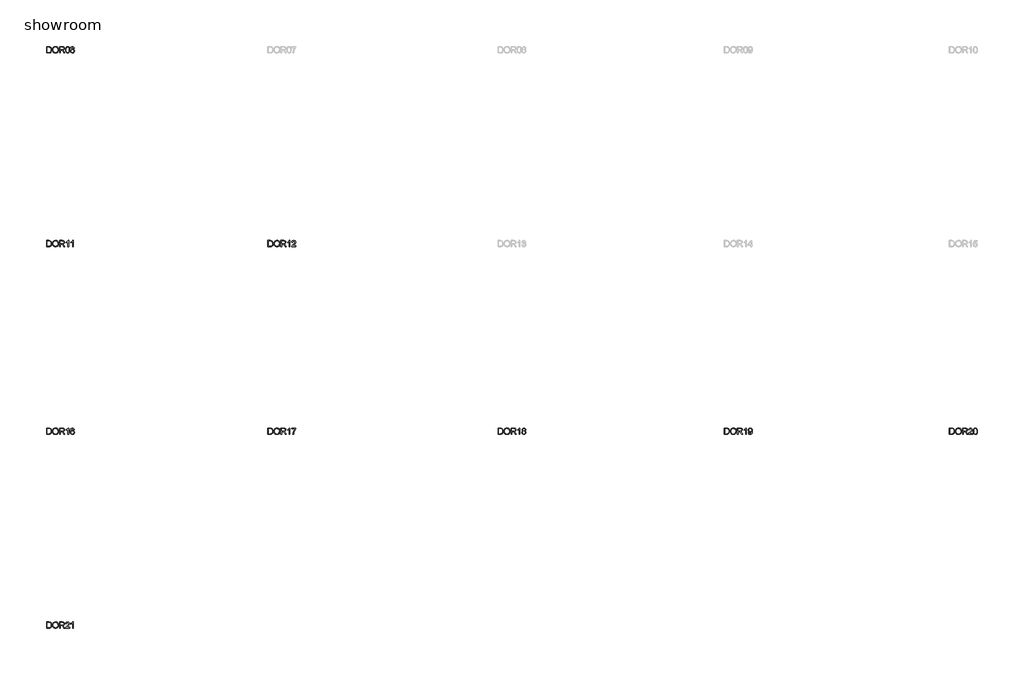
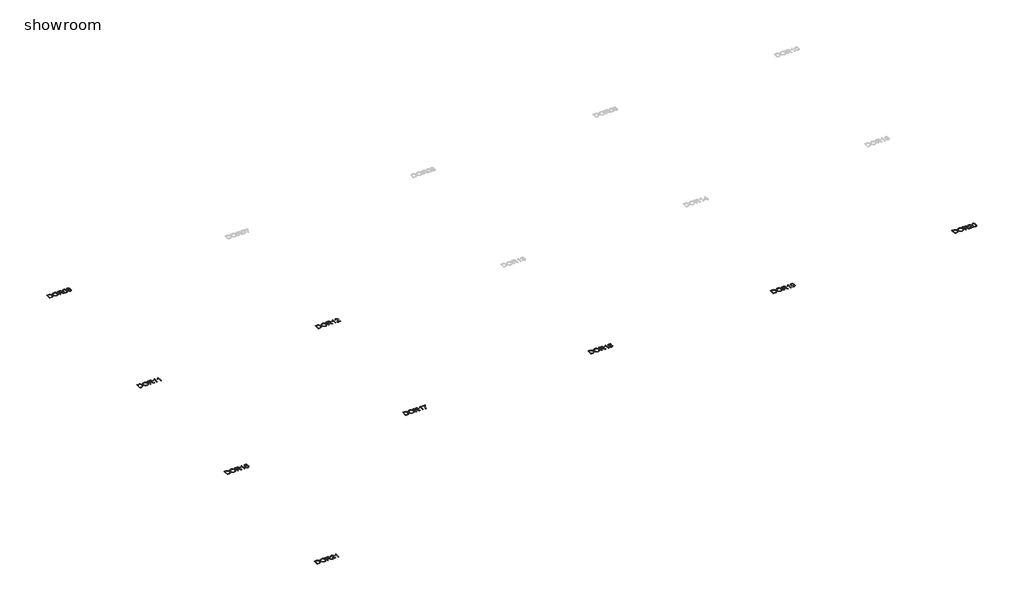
# One storey, part 1 of 4: 9 proxies.
"""IFC4 building model written with IfcOpenShell, lengths in millimetres."""

from ifc_helpers import new_model, si_unit, origin, origin_with_axes, place, context, project, spatial, polyline, outline, extrude, element, save

model = new_model("IFC4")

# Units and contexts
model_context = context("Model", 3, world=origin())
ifc_project = project(units=[si_unit("LENGTHUNIT", "METRE", prefix="MILLI")], contexts=[model_context])

# Site, building, storey
site = spatial("IfcSite", under=ifc_project)
building = spatial("IfcBuilding", under=site)
storey = spatial("IfcBuildingStorey", under=building, Name="showroom", Elevation=0.0)

# Proxies
placement = place(None, origin())
element("IfcBuildingElementProxy", 1, Name="100mm Arial", ObjectType="100mm Arial", at=placement, inside=storey, context=model_context, shape_type="SweptSolid", body=[
    extrude(outline(polyline([(-1828.1876441, -3324.8979193), (-1828.1876441, -3224.4416092), (-1793.5331602, -3224.4416092), (-1775.6050443, -3225.8886117), (-1760.8407135, -3233.0745733), (-1748.9458623, -3250.2423998), (-1744.9972623, -3274.130204), (-1747.6705381, -3294.4005019), (-1754.5376687, -3309.0299426), (-1763.7101931, -3318.1411534), (-1775.7154089, -3323.1811367), (-1791.8654284, -3324.8979193), (-1828.1876441, -3324.8979193)]), holes=[polyline([(-1815.6306053, -3312.3408806), (-1793.4105328, -3312.3408806), (-1777.2482505, -3310.5259961), (-1767.9285733, -3305.4001736), (-1760.2888905, -3292.9289739), (-1757.554301, -3273.9340003), (-1758.8940046, -3260.24879), (-1762.9131154, -3250.1442979), (-1775.9484008, -3239.0097362), (-1793.7538894, -3236.9986479), (-1815.6306053, -3236.9986479), (-1815.6306053, -3312.3408806)])]), origin_with_axes(), (0.0, 0.0, 1.0), 2.0),
    extrude(outline(polyline([(-1732.4402235, -3275.9941394), (-1729.0924973, -3253.7801983), (-1719.0493189, -3236.9741225), (-1703.714771, -3226.3975151), (-1684.4929368, -3222.8719793), (-1671.31663, -3224.5274483), (-1659.5014866, -3229.4938552), (-1649.6913, -3237.4217122), (-1642.5298639, -3247.9615314), (-1638.1520681, -3260.6044093), (-1636.6928029, -3274.8414425), (-1638.2287102, -3289.2685481), (-1642.8364322, -3302.0892356), (-1650.2615171, -3312.6474489), (-1660.2495133, -3320.2871317), (-1671.9634892, -3324.9224448), (-1684.5665132, -3326.4675492), (-1697.9451551, -3324.7599636), (-1709.8277435, -3319.6372068), (-1719.6134046, -3311.562197), (-1726.7012644, -3300.9978524), (-1732.4402235, -3275.9941394)]), holes=[polyline([(-1719.8831847, -3276.1167668), (-1717.3723901, -3291.8314593), (-1709.8400063, -3303.8060183), (-1698.5184378, -3311.3843874), (-1684.6400896, -3313.9105104), (-1670.5594062, -3311.3598619), (-1659.2194437, -3303.7079164), (-1651.7422422, -3291.3654755), (-1649.2498416, -3274.7433407), (-1653.5172728, -3254.0193216), (-1665.9884724, -3240.2973232), (-1684.4193604, -3235.4290181), (-1697.926761, -3237.7742658), (-1709.4108106, -3244.810009), (-1717.2650912, -3257.3271939), (-1719.8831847, -3276.1167668)])]), origin_with_axes(), (0.0, 0.0, 1.0), 2.0),
    extrude(outline(polyline([(-1619.4268746, -3324.8979193), (-1619.4268746, -3224.4416092), (-1576.1394265, -3224.4416092), (-1556.0408068, -3227.1516732), (-1545.0533979, -3236.7411306), (-1540.9453823, -3251.934657), (-1542.6468365, -3261.8306826), (-1547.7511992, -3270.0344511), (-1556.4117545, -3276.0493217), (-1568.7817866, -3279.3786538), (-1561.6448759, -3284.7497309), (-1551.4668073, -3297.6746517), (-1534.7159138, -3324.8979193), (-1549.3085663, -3324.8979193), (-1562.3806399, -3304.0757984), (-1571.8229444, -3290.2924863), (-1578.457083, -3283.780975), (-1584.4290341, -3281.389742), (-1591.7130976, -3280.9482836), (-1606.8698358, -3280.9482836), (-1606.8698358, -3324.8979193), (-1619.4268746, -3324.8979193)]), holes=[polyline([(-1606.8698358, -3268.3912449), (-1578.7636514, -3268.3912449), (-1564.4285163, -3266.6131486), (-1556.2860615, -3260.9232404), (-1553.502421, -3252.4006408), (-1558.8121845, -3241.3396555), (-1575.5998662, -3236.9986479), (-1606.8698358, -3236.9986479), (-1606.8698358, -3268.3912449)])]), origin_with_axes(), (0.0, 0.0, 1.0), 2.0),
    extrude(outline(polyline([(-1523.679454, -3275.4791046), (-1519.9883713, -3246.5758426), (-1509.0254878, -3229.9107882), (-1490.7172272, -3224.4416092), (-1476.0509983, -3227.6789707), (-1465.9219807, -3237.0109107), (-1460.0358688, -3251.8733433), (-1457.7550004, -3275.4791046), (-1461.4092949, -3304.2597394), (-1472.3353902, -3320.961582), (-1480.5667498, -3325.0910574), (-1490.7172272, -3326.4675492), (-1503.7647753, -3324.0763162), (-1513.6730637, -3316.9026173), (-1521.1778564, -3299.9126005), (-1523.679454, -3275.4791046)]), holes=[polyline([(-1511.1224152, -3275.4545792), (-1509.6508872, -3295.2067766), (-1505.2363033, -3306.6387096), (-1498.6634783, -3312.0925602), (-1490.7172272, -3313.9105104), (-1482.7709761, -3312.0864288), (-1476.1981511, -3306.6141842), (-1471.7835672, -3295.1761198), (-1470.3120392, -3275.4545792), (-1471.7345162, -3256.1469058), (-1476.0019474, -3244.626068), (-1482.5625096, -3238.905503), (-1490.86438, -3236.9986479), (-1498.724792, -3238.6786424), (-1505.0400995, -3243.7186257), (-1509.6018363, -3255.9568334), (-1511.1224152, -3275.4545792)])]), origin_with_axes(), (0.0, 0.0, 1.0), 2.0),
    extrude(outline(polyline([(-1382.4127678, -3251.1253166), (-1394.9698066, -3252.6949464), (-1399.7277471, -3242.2225723), (-1412.3093113, -3236.9986479), (-1423.6400767, -3240.0398058), (-1432.2117272, -3251.4564104), (-1435.7801826, -3273.8358984), (-1424.7069345, -3263.8172454), (-1410.9849361, -3260.5430956), (-1399.3843905, -3262.7810444), (-1389.6477804, -3269.4948909), (-1383.0442986, -3279.7526672), (-1380.843138, -3292.6224056), (-1384.9879418, -3309.9496476), (-1396.3922836, -3322.2123808), (-1412.8488715, -3326.4675492), (-1427.0951018, -3323.6471205), (-1438.4411957, -3315.1858347), (-1445.8632149, -3300.2498257), (-1448.3372213, -3278.0052277), (-1445.5903691, -3252.9953834), (-1437.3498124, -3235.895002), (-1426.0987547, -3227.3049574), (-1411.5244964, -3224.4416092), (-1400.5064306, -3226.2135741), (-1391.6833941, -3231.529469), (-1385.5029766, -3239.9723607), (-1382.4127678, -3251.1253166)]), holes=[polyline([(-1435.7801826, -3292.4262019), (-1432.8739148, -3303.3032462), (-1425.1483929, -3311.2004464), (-1413.8298902, -3313.9105104), (-1405.5433483, -3312.5064275), (-1399.0287713, -3308.2941786), (-1394.8073254, -3301.6723027), (-1393.4001767, -3293.0393385), (-1394.7889313, -3284.7527966), (-1398.9551949, -3278.4344233), (-1405.5801365, -3274.4337066), (-1414.344925, -3273.1001344), (-1429.5384514, -3278.4344233), (-1434.2197498, -3284.5995124), (-1435.7801826, -3292.4262019)])]), origin_with_axes(), (0.0, 0.0, 1.0), 2.0),
])
element("IfcBuildingElementProxy", 2, Name="100mm Arial", ObjectType="100mm Arial", at=placement, inside=storey, context=model_context, shape_type="SweptSolid", body=[
    extrude(outline(polyline([(-1828.1876441, -6424.8979193), (-1828.1876441, -6324.4416092), (-1793.5331602, -6324.4416092), (-1775.6050443, -6325.8886117), (-1760.8407135, -6333.0745733), (-1748.9458623, -6350.2423998), (-1744.9972623, -6374.130204), (-1747.6705381, -6394.4005019), (-1754.5376687, -6409.0299426), (-1763.7101931, -6418.1411534), (-1775.7154089, -6423.1811367), (-1791.8654284, -6424.8979193), (-1828.1876441, -6424.8979193)]), holes=[polyline([(-1815.6306053, -6412.3408806), (-1793.4105328, -6412.3408806), (-1777.2482505, -6410.5259961), (-1767.9285733, -6405.4001736), (-1760.2888905, -6392.9289739), (-1757.554301, -6373.9340003), (-1758.8940046, -6360.24879), (-1762.9131154, -6350.1442979), (-1775.9484008, -6339.0097362), (-1793.7538894, -6336.9986479), (-1815.6306053, -6336.9986479), (-1815.6306053, -6412.3408806)])]), origin_with_axes(), (0.0, 0.0, 1.0), 2.0),
    extrude(outline(polyline([(-1732.4402235, -6375.9941394), (-1729.0924973, -6353.7801983), (-1719.0493189, -6336.9741225), (-1703.714771, -6326.3975151), (-1684.4929368, -6322.8719793), (-1671.31663, -6324.5274483), (-1659.5014866, -6329.4938552), (-1649.6913, -6337.4217122), (-1642.5298639, -6347.9615314), (-1638.1520681, -6360.6044093), (-1636.6928029, -6374.8414425), (-1638.2287102, -6389.2685481), (-1642.8364322, -6402.0892356), (-1650.2615171, -6412.6474489), (-1660.2495133, -6420.2871317), (-1671.9634892, -6424.9224448), (-1684.5665132, -6426.4675492), (-1697.9451551, -6424.7599636), (-1709.8277435, -6419.6372068), (-1719.6134046, -6411.562197), (-1726.7012644, -6400.9978524), (-1732.4402235, -6375.9941394)]), holes=[polyline([(-1719.8831847, -6376.1167668), (-1717.3723901, -6391.8314593), (-1709.8400063, -6403.8060183), (-1698.5184378, -6411.3843874), (-1684.6400896, -6413.9105104), (-1670.5594062, -6411.3598619), (-1659.2194437, -6403.7079164), (-1651.7422422, -6391.3654755), (-1649.2498416, -6374.7433407), (-1653.5172728, -6354.0193216), (-1665.9884724, -6340.2973232), (-1684.4193604, -6335.4290181), (-1697.926761, -6337.7742658), (-1709.4108106, -6344.810009), (-1717.2650912, -6357.3271939), (-1719.8831847, -6376.1167668)])]), origin_with_axes(), (0.0, 0.0, 1.0), 2.0),
    extrude(outline(polyline([(-1619.4268746, -6424.8979193), (-1619.4268746, -6324.4416092), (-1576.1394265, -6324.4416092), (-1556.0408068, -6327.1516732), (-1545.0533979, -6336.7411306), (-1540.9453823, -6351.934657), (-1542.6468365, -6361.8306826), (-1547.7511992, -6370.0344511), (-1556.4117545, -6376.0493217), (-1568.7817866, -6379.3786538), (-1561.6448759, -6384.7497309), (-1551.4668073, -6397.6746517), (-1534.7159138, -6424.8979193), (-1549.3085663, -6424.8979193), (-1562.3806399, -6404.0757984), (-1571.8229444, -6390.2924863), (-1578.457083, -6383.780975), (-1584.4290341, -6381.389742), (-1591.7130976, -6380.9482836), (-1606.8698358, -6380.9482836), (-1606.8698358, -6424.8979193), (-1619.4268746, -6424.8979193)]), holes=[polyline([(-1606.8698358, -6368.3912449), (-1578.7636514, -6368.3912449), (-1564.4285163, -6366.6131486), (-1556.2860615, -6360.9232404), (-1553.502421, -6352.4006408), (-1558.8121845, -6341.3396555), (-1575.5998662, -6336.9986479), (-1606.8698358, -6336.9986479), (-1606.8698358, -6368.3912449)])]), origin_with_axes(), (0.0, 0.0, 1.0), 2.0),
    extrude(outline(polyline([(-1476.5905586, -6424.8979193), (-1489.1475973, -6424.8979193), (-1489.1475973, -6346.6126308), (-1501.0424485, -6355.0861794), (-1514.2616749, -6361.4260124), (-1514.2616749, -6349.5556867), (-1495.8553124, -6337.8079883), (-1484.6839625, -6324.4416092), (-1476.5905586, -6324.4416092), (-1476.5905586, -6424.8979193)])), origin_with_axes(), (0.0, 0.0, 1.0), 2.0),
    extrude(outline(polyline([(-1399.6786961, -6424.8979193), (-1412.2357349, -6424.8979193), (-1412.2357349, -6346.6126308), (-1424.1305861, -6355.0861794), (-1437.3498124, -6361.4260124), (-1437.3498124, -6349.5556867), (-1418.9434499, -6337.8079883), (-1407.7721, -6324.4416092), (-1399.6786961, -6324.4416092), (-1399.6786961, -6424.8979193)])), origin_with_axes(), (0.0, 0.0, 1.0), 2.0),
])
element("IfcBuildingElementProxy", 3, Name="100mm Arial", ObjectType="100mm Arial", at=placement, inside=storey, context=model_context, shape_type="SweptSolid", body=[
    extrude(outline(polyline([(1711.8123559, -6424.8979193), (1711.8123559, -6324.4416092), (1746.4668398, -6324.4416092), (1764.3949557, -6325.8886117), (1779.1592865, -6333.0745733), (1791.0541377, -6350.2423998), (1795.0027377, -6374.130204), (1792.3294619, -6394.4005019), (1785.4623313, -6409.0299426), (1776.2898069, -6418.1411534), (1764.2845911, -6423.1811367), (1748.1345716, -6424.8979193), (1711.8123559, -6424.8979193)]), holes=[polyline([(1724.3693947, -6412.3408806), (1746.5894672, -6412.3408806), (1762.7517495, -6410.5259961), (1772.0714267, -6405.4001736), (1779.7111095, -6392.9289739), (1782.445699, -6373.9340003), (1781.1059954, -6360.24879), (1777.0868846, -6350.1442979), (1764.0515992, -6339.0097362), (1746.2461106, -6336.9986479), (1724.3693947, -6336.9986479), (1724.3693947, -6412.3408806)])]), origin_with_axes(), (0.0, 0.0, 1.0), 2.0),
    extrude(outline(polyline([(1807.5597765, -6375.9941394), (1810.9075027, -6353.7801983), (1820.9506811, -6336.9741225), (1836.285229, -6326.3975151), (1855.5070632, -6322.8719793), (1868.68337, -6324.5274483), (1880.4985134, -6329.4938552), (1890.3087, -6337.4217122), (1897.4701361, -6347.9615314), (1901.8479319, -6360.6044093), (1903.3071971, -6374.8414425), (1901.7712898, -6389.2685481), (1897.1635678, -6402.0892356), (1889.7384829, -6412.6474489), (1879.7504867, -6420.2871317), (1868.0365108, -6424.9224448), (1855.4334868, -6426.4675492), (1842.0548449, -6424.7599636), (1830.1722565, -6419.6372068), (1820.3865954, -6411.562197), (1813.2987356, -6400.9978524), (1807.5597765, -6375.9941394)]), holes=[polyline([(1820.1168153, -6376.1167668), (1822.6276099, -6391.8314593), (1830.1599937, -6403.8060183), (1841.4815622, -6411.3843874), (1855.3599104, -6413.9105104), (1869.4405938, -6411.3598619), (1880.7805563, -6403.7079164), (1888.2577578, -6391.3654755), (1890.7501584, -6374.7433407), (1886.4827272, -6354.0193216), (1874.0115276, -6340.2973232), (1855.5806396, -6335.4290181), (1842.073239, -6337.7742658), (1830.5891894, -6344.810009), (1822.7349088, -6357.3271939), (1820.1168153, -6376.1167668)])]), origin_with_axes(), (0.0, 0.0, 1.0), 2.0),
    extrude(outline(polyline([(1920.5731254, -6424.8979193), (1920.5731254, -6324.4416092), (1963.8605735, -6324.4416092), (1983.9591932, -6327.1516732), (1994.9466021, -6336.7411306), (1999.0546177, -6351.934657), (1997.3531635, -6361.8306826), (1992.2488008, -6370.0344511), (1983.5882455, -6376.0493217), (1971.2182134, -6379.3786538), (1978.3551241, -6384.7497309), (1988.5331927, -6397.6746517), (2005.2840862, -6424.8979193), (1990.6914337, -6424.8979193), (1977.6193601, -6404.0757984), (1968.1770556, -6390.2924863), (1961.542917, -6383.780975), (1955.5709659, -6381.389742), (1948.2869024, -6380.9482836), (1933.1301642, -6380.9482836), (1933.1301642, -6424.8979193), (1920.5731254, -6424.8979193)]), holes=[polyline([(1933.1301642, -6368.3912449), (1961.2363486, -6368.3912449), (1975.5714837, -6366.6131486), (1983.7139385, -6360.9232404), (1986.497579, -6352.4006408), (1981.1878155, -6341.3396555), (1964.4001338, -6336.9986479), (1933.1301642, -6336.9986479), (1933.1301642, -6368.3912449)])]), origin_with_axes(), (0.0, 0.0, 1.0), 2.0),
    extrude(outline(polyline([(2063.4094414, -6424.8979193), (2050.8524027, -6424.8979193), (2050.8524027, -6346.6126308), (2038.9575515, -6355.0861794), (2025.7383251, -6361.4260124), (2025.7383251, -6349.5556867), (2044.1446876, -6337.8079883), (2055.3160375, -6324.4416092), (2063.4094414, -6324.4416092), (2063.4094414, -6424.8979193)])), origin_with_axes(), (0.0, 0.0, 1.0), 2.0),
    extrude(outline(polyline([(2157.5872322, -6412.3408806), (2157.5872322, -6424.8979193), (2091.6627787, -6424.8979193), (2093.0116793, -6416.2404297), (2100.6390993, -6402.9108387), (2116.3599233, -6388.3549745), (2138.0404355, -6367.4347517), (2143.4605636, -6353.2099812), (2138.3470038, -6341.6952748), (2124.9928874, -6336.9986479), (2111.0746853, -6341.5849102), (2105.7894473, -6354.2645763), (2093.2324085, -6352.6949464), (2096.276632, -6340.5487092), (2102.858654, -6331.6766218), (2112.6351181, -6326.2503623), (2125.2626675, -6324.4416092), (2137.9821875, -6326.4526974), (2147.7402575, -6332.4859621), (2153.9482661, -6341.499071), (2156.0176023, -6352.4496917), (2153.7857849, -6364.3568057), (2146.3668313, -6376.6685898), (2128.3774018, -6393.8732044), (2113.9319021, -6405.9519966), (2108.2665194, -6412.3408806), (2157.5872322, -6412.3408806)])), origin_with_axes(), (0.0, 0.0, 1.0), 2.0),
])
element("IfcBuildingElementProxy", 4, Name="100mm Arial", ObjectType="100mm Arial", at=placement, inside=storey, context=model_context, shape_type="SweptSolid", body=[
    extrude(outline(polyline([(-1828.1876441, -9424.8979193), (-1828.1876441, -9324.4416092), (-1793.5331602, -9324.4416092), (-1775.6050443, -9325.8886117), (-1760.8407135, -9333.0745733), (-1748.9458623, -9350.2423998), (-1744.9972623, -9374.130204), (-1747.6705381, -9394.4005019), (-1754.5376687, -9409.0299426), (-1763.7101931, -9418.1411534), (-1775.7154089, -9423.1811367), (-1791.8654284, -9424.8979193), (-1828.1876441, -9424.8979193)]), holes=[polyline([(-1815.6306053, -9412.3408806), (-1793.4105328, -9412.3408806), (-1777.2482505, -9410.5259961), (-1767.9285733, -9405.4001736), (-1760.2888905, -9392.9289739), (-1757.554301, -9373.9340003), (-1758.8940046, -9360.24879), (-1762.9131154, -9350.1442979), (-1775.9484008, -9339.0097362), (-1793.7538894, -9336.9986479), (-1815.6306053, -9336.9986479), (-1815.6306053, -9412.3408806)])]), origin_with_axes(), (0.0, 0.0, 1.0), 2.0),
    extrude(outline(polyline([(-1732.4402235, -9375.9941394), (-1729.0924973, -9353.7801983), (-1719.0493189, -9336.9741225), (-1703.714771, -9326.3975151), (-1684.4929368, -9322.8719793), (-1671.31663, -9324.5274483), (-1659.5014866, -9329.4938552), (-1649.6913, -9337.4217122), (-1642.5298639, -9347.9615314), (-1638.1520681, -9360.6044093), (-1636.6928029, -9374.8414425), (-1638.2287102, -9389.2685481), (-1642.8364322, -9402.0892356), (-1650.2615171, -9412.6474489), (-1660.2495133, -9420.2871317), (-1671.9634892, -9424.9224448), (-1684.5665132, -9426.4675492), (-1697.9451551, -9424.7599636), (-1709.8277435, -9419.6372068), (-1719.6134046, -9411.562197), (-1726.7012644, -9400.9978524), (-1732.4402235, -9375.9941394)]), holes=[polyline([(-1719.8831847, -9376.1167668), (-1717.3723901, -9391.8314593), (-1709.8400063, -9403.8060183), (-1698.5184378, -9411.3843874), (-1684.6400896, -9413.9105104), (-1670.5594062, -9411.3598619), (-1659.2194437, -9403.7079164), (-1651.7422422, -9391.3654755), (-1649.2498416, -9374.7433407), (-1653.5172728, -9354.0193216), (-1665.9884724, -9340.2973232), (-1684.4193604, -9335.4290181), (-1697.926761, -9337.7742658), (-1709.4108106, -9344.810009), (-1717.2650912, -9357.3271939), (-1719.8831847, -9376.1167668)])]), origin_with_axes(), (0.0, 0.0, 1.0), 2.0),
    extrude(outline(polyline([(-1619.4268746, -9424.8979193), (-1619.4268746, -9324.4416092), (-1576.1394265, -9324.4416092), (-1556.0408068, -9327.1516732), (-1545.0533979, -9336.7411306), (-1540.9453823, -9351.934657), (-1542.6468365, -9361.8306826), (-1547.7511992, -9370.0344511), (-1556.4117545, -9376.0493217), (-1568.7817866, -9379.3786538), (-1561.6448759, -9384.7497309), (-1551.4668073, -9397.6746517), (-1534.7159138, -9424.8979193), (-1549.3085663, -9424.8979193), (-1562.3806399, -9404.0757984), (-1571.8229444, -9390.2924863), (-1578.457083, -9383.780975), (-1584.4290341, -9381.389742), (-1591.7130976, -9380.9482836), (-1606.8698358, -9380.9482836), (-1606.8698358, -9424.8979193), (-1619.4268746, -9424.8979193)]), holes=[polyline([(-1606.8698358, -9368.3912449), (-1578.7636514, -9368.3912449), (-1564.4285163, -9366.6131486), (-1556.2860615, -9360.9232404), (-1553.502421, -9352.4006408), (-1558.8121845, -9341.3396555), (-1575.5998662, -9336.9986479), (-1606.8698358, -9336.9986479), (-1606.8698358, -9368.3912449)])]), origin_with_axes(), (0.0, 0.0, 1.0), 2.0),
    extrude(outline(polyline([(-1476.5905586, -9424.8979193), (-1489.1475973, -9424.8979193), (-1489.1475973, -9346.6126308), (-1501.0424485, -9355.0861794), (-1514.2616749, -9361.4260124), (-1514.2616749, -9349.5556867), (-1495.8553124, -9337.8079883), (-1484.6839625, -9324.4416092), (-1476.5905586, -9324.4416092), (-1476.5905586, -9424.8979193)])), origin_with_axes(), (0.0, 0.0, 1.0), 2.0),
    extrude(outline(polyline([(-1382.4127678, -9351.1253166), (-1394.9698066, -9352.6949464), (-1399.7277471, -9342.2225723), (-1412.3093113, -9336.9986479), (-1423.6400767, -9340.0398058), (-1432.2117272, -9351.4564104), (-1435.7801826, -9373.8358984), (-1424.7069345, -9363.8172454), (-1410.9849361, -9360.5430956), (-1399.3843905, -9362.7810444), (-1389.6477804, -9369.4948909), (-1383.0442986, -9379.7526672), (-1380.843138, -9392.6224056), (-1384.9879418, -9409.9496476), (-1396.3922836, -9422.2123808), (-1412.8488715, -9426.4675492), (-1427.0951018, -9423.6471205), (-1438.4411957, -9415.1858347), (-1445.8632149, -9400.2498257), (-1448.3372213, -9378.0052277), (-1445.5903691, -9352.9953834), (-1437.3498124, -9335.895002), (-1426.0987547, -9327.3049574), (-1411.5244964, -9324.4416092), (-1400.5064306, -9326.2135741), (-1391.6833941, -9331.529469), (-1385.5029766, -9339.9723607), (-1382.4127678, -9351.1253166)]), holes=[polyline([(-1435.7801826, -9392.4262019), (-1432.8739148, -9403.3032462), (-1425.1483929, -9411.2004464), (-1413.8298902, -9413.9105104), (-1405.5433483, -9412.5064275), (-1399.0287713, -9408.2941786), (-1394.8073254, -9401.6723027), (-1393.4001767, -9393.0393385), (-1394.7889313, -9384.7527966), (-1398.9551949, -9378.4344233), (-1405.5801365, -9374.4337066), (-1414.344925, -9373.1001344), (-1429.5384514, -9378.4344233), (-1434.2197498, -9384.5995124), (-1435.7801826, -9392.4262019)])]), origin_with_axes(), (0.0, 0.0, 1.0), 2.0),
])
element("IfcBuildingElementProxy", 5, Name="100mm Arial", ObjectType="100mm Arial", at=placement, inside=storey, context=model_context, shape_type="SweptSolid", body=[
    extrude(outline(polyline([(1711.8123559, -9424.8979193), (1711.8123559, -9324.4416092), (1746.4668398, -9324.4416092), (1764.3949557, -9325.8886117), (1779.1592865, -9333.0745733), (1791.0541377, -9350.2423998), (1795.0027377, -9374.130204), (1792.3294619, -9394.4005019), (1785.4623313, -9409.0299426), (1776.2898069, -9418.1411534), (1764.2845911, -9423.1811367), (1748.1345716, -9424.8979193), (1711.8123559, -9424.8979193)]), holes=[polyline([(1724.3693947, -9412.3408806), (1746.5894672, -9412.3408806), (1762.7517495, -9410.5259961), (1772.0714267, -9405.4001736), (1779.7111095, -9392.9289739), (1782.445699, -9373.9340003), (1781.1059954, -9360.24879), (1777.0868846, -9350.1442979), (1764.0515992, -9339.0097362), (1746.2461106, -9336.9986479), (1724.3693947, -9336.9986479), (1724.3693947, -9412.3408806)])]), origin_with_axes(), (0.0, 0.0, 1.0), 2.0),
    extrude(outline(polyline([(1807.5597765, -9375.9941394), (1810.9075027, -9353.7801983), (1820.9506811, -9336.9741225), (1836.285229, -9326.3975151), (1855.5070632, -9322.8719793), (1868.68337, -9324.5274483), (1880.4985134, -9329.4938552), (1890.3087, -9337.4217122), (1897.4701361, -9347.9615314), (1901.8479319, -9360.6044093), (1903.3071971, -9374.8414425), (1901.7712898, -9389.2685481), (1897.1635678, -9402.0892356), (1889.7384829, -9412.6474489), (1879.7504867, -9420.2871317), (1868.0365108, -9424.9224448), (1855.4334868, -9426.4675492), (1842.0548449, -9424.7599636), (1830.1722565, -9419.6372068), (1820.3865954, -9411.562197), (1813.2987356, -9400.9978524), (1807.5597765, -9375.9941394)]), holes=[polyline([(1820.1168153, -9376.1167668), (1822.6276099, -9391.8314593), (1830.1599937, -9403.8060183), (1841.4815622, -9411.3843874), (1855.3599104, -9413.9105104), (1869.4405938, -9411.3598619), (1880.7805563, -9403.7079164), (1888.2577578, -9391.3654755), (1890.7501584, -9374.7433407), (1886.4827272, -9354.0193216), (1874.0115276, -9340.2973232), (1855.5806396, -9335.4290181), (1842.073239, -9337.7742658), (1830.5891894, -9344.810009), (1822.7349088, -9357.3271939), (1820.1168153, -9376.1167668)])]), origin_with_axes(), (0.0, 0.0, 1.0), 2.0),
    extrude(outline(polyline([(1920.5731254, -9424.8979193), (1920.5731254, -9324.4416092), (1963.8605735, -9324.4416092), (1983.9591932, -9327.1516732), (1994.9466021, -9336.7411306), (1999.0546177, -9351.934657), (1997.3531635, -9361.8306826), (1992.2488008, -9370.0344511), (1983.5882455, -9376.0493217), (1971.2182134, -9379.3786538), (1978.3551241, -9384.7497309), (1988.5331927, -9397.6746517), (2005.2840862, -9424.8979193), (1990.6914337, -9424.8979193), (1977.6193601, -9404.0757984), (1968.1770556, -9390.2924863), (1961.542917, -9383.780975), (1955.5709659, -9381.389742), (1948.2869024, -9380.9482836), (1933.1301642, -9380.9482836), (1933.1301642, -9424.8979193), (1920.5731254, -9424.8979193)]), holes=[polyline([(1933.1301642, -9368.3912449), (1961.2363486, -9368.3912449), (1975.5714837, -9366.6131486), (1983.7139385, -9360.9232404), (1986.497579, -9352.4006408), (1981.1878155, -9341.3396555), (1964.4001338, -9336.9986479), (1933.1301642, -9336.9986479), (1933.1301642, -9368.3912449)])]), origin_with_axes(), (0.0, 0.0, 1.0), 2.0),
    extrude(outline(polyline([(2063.4094414, -9424.8979193), (2050.8524027, -9424.8979193), (2050.8524027, -9346.6126308), (2038.9575515, -9355.0861794), (2025.7383251, -9361.4260124), (2025.7383251, -9349.5556867), (2044.1446876, -9337.8079883), (2055.3160375, -9324.4416092), (2063.4094414, -9324.4416092), (2063.4094414, -9424.8979193)])), origin_with_axes(), (0.0, 0.0, 1.0), 2.0),
    extrude(outline(polyline([(2093.2324085, -9338.5682778), (2093.2324085, -9326.011239), (2159.156862, -9326.011239), (2159.156862, -9336.1647821), (2140.4561939, -9363.1795833), (2126.1455843, -9397.6010753), (2121.4857457, -9424.8979193), (2108.928707, -9424.8979193), (2113.9196394, -9396.5710057), (2127.6171123, -9364.5530094), (2146.5998233, -9338.5682778), (2093.2324085, -9338.5682778)])), origin_with_axes(), (0.0, 0.0, 1.0), 2.0),
])
element("IfcBuildingElementProxy", 6, Name="100mm Arial", ObjectType="100mm Arial", at=placement, inside=storey, context=model_context, shape_type="SweptSolid", body=[
    extrude(outline(polyline([(5391.8123559, -9424.8979193), (5391.8123559, -9324.4416092), (5426.4668398, -9324.4416092), (5444.3949557, -9325.8886117), (5459.1592865, -9333.0745733), (5471.0541377, -9350.2423998), (5475.0027377, -9374.130204), (5472.3294619, -9394.4005019), (5465.4623313, -9409.0299426), (5456.2898069, -9418.1411534), (5444.2845911, -9423.1811367), (5428.1345716, -9424.8979193), (5391.8123559, -9424.8979193)]), holes=[polyline([(5404.3693947, -9412.3408806), (5426.5894672, -9412.3408806), (5442.7517495, -9410.5259961), (5452.0714267, -9405.4001736), (5459.7111095, -9392.9289739), (5462.445699, -9373.9340003), (5461.1059954, -9360.24879), (5457.0868846, -9350.1442979), (5444.0515992, -9339.0097362), (5426.2461106, -9336.9986479), (5404.3693947, -9336.9986479), (5404.3693947, -9412.3408806)])]), origin_with_axes(), (0.0, 0.0, 1.0), 2.0),
    extrude(outline(polyline([(5487.5597765, -9375.9941394), (5490.9075027, -9353.7801983), (5500.9506811, -9336.9741225), (5516.285229, -9326.3975151), (5535.5070632, -9322.8719793), (5548.68337, -9324.5274483), (5560.4985134, -9329.4938552), (5570.3087, -9337.4217122), (5577.4701361, -9347.9615314), (5581.8479319, -9360.6044093), (5583.3071971, -9374.8414425), (5581.7712898, -9389.2685481), (5577.1635678, -9402.0892356), (5569.7384829, -9412.6474489), (5559.7504867, -9420.2871317), (5548.0365108, -9424.9224448), (5535.4334868, -9426.4675492), (5522.0548449, -9424.7599636), (5510.1722565, -9419.6372068), (5500.3865954, -9411.562197), (5493.2987356, -9400.9978524), (5487.5597765, -9375.9941394)]), holes=[polyline([(5500.1168153, -9376.1167668), (5502.6276099, -9391.8314593), (5510.1599937, -9403.8060183), (5521.4815622, -9411.3843874), (5535.3599104, -9413.9105104), (5549.4405938, -9411.3598619), (5560.7805563, -9403.7079164), (5568.2577578, -9391.3654755), (5570.7501584, -9374.7433407), (5566.4827272, -9354.0193216), (5554.0115276, -9340.2973232), (5535.5806396, -9335.4290181), (5522.073239, -9337.7742658), (5510.5891894, -9344.810009), (5502.7349088, -9357.3271939), (5500.1168153, -9376.1167668)])]), origin_with_axes(), (0.0, 0.0, 1.0), 2.0),
    extrude(outline(polyline([(5600.5731254, -9424.8979193), (5600.5731254, -9324.4416092), (5643.8605735, -9324.4416092), (5663.9591932, -9327.1516732), (5674.9466021, -9336.7411306), (5679.0546177, -9351.934657), (5677.3531635, -9361.8306826), (5672.2488008, -9370.0344511), (5663.5882455, -9376.0493217), (5651.2182134, -9379.3786538), (5658.3551241, -9384.7497309), (5668.5331927, -9397.6746517), (5685.2840862, -9424.8979193), (5670.6914337, -9424.8979193), (5657.6193601, -9404.0757984), (5648.1770556, -9390.2924863), (5641.542917, -9383.780975), (5635.5709659, -9381.389742), (5628.2869024, -9380.9482836), (5613.1301642, -9380.9482836), (5613.1301642, -9424.8979193), (5600.5731254, -9424.8979193)]), holes=[polyline([(5613.1301642, -9368.3912449), (5641.2363486, -9368.3912449), (5655.5714837, -9366.6131486), (5663.7139385, -9360.9232404), (5666.497579, -9352.4006408), (5661.1878155, -9341.3396555), (5644.4001338, -9336.9986479), (5613.1301642, -9336.9986479), (5613.1301642, -9368.3912449)])]), origin_with_axes(), (0.0, 0.0, 1.0), 2.0),
    extrude(outline(polyline([(5743.4094414, -9424.8979193), (5730.8524027, -9424.8979193), (5730.8524027, -9346.6126308), (5718.9575515, -9355.0861794), (5705.7383251, -9361.4260124), (5705.7383251, -9349.5556867), (5724.1446876, -9337.8079883), (5735.3160375, -9324.4416092), (5743.4094414, -9324.4416092), (5743.4094414, -9424.8979193)])), origin_with_axes(), (0.0, 0.0, 1.0), 2.0),
    extrude(outline(polyline([(5791.5284064, -9369.5684673), (5780.0872763, -9361.769369), (5776.3716682, -9349.6292631), (5778.3950192, -9339.8129452), (5784.4650721, -9331.7011472), (5793.9012453, -9326.2564937), (5806.022957, -9324.4416092), (5818.2182451, -9326.2994133), (5827.7770457, -9331.8728255), (5833.9574632, -9340.1133822), (5836.0176023, -9349.9726196), (5832.3510451, -9361.8061572), (5821.2287461, -9369.5684673), (5834.5828626, -9379.415442), (5839.156862, -9395.6635634), (5836.8882564, -9407.6687792), (5830.0824395, -9417.5893304), (5819.5732772, -9424.2479945), (5806.1946353, -9426.4675492), (5792.8159934, -9424.2387974), (5782.306831, -9417.5525422), (5775.5010141, -9407.5369548), (5773.2324085, -9395.3202069), (5777.990349, -9378.6919407), (5791.5284064, -9369.5684673)]), holes=[polyline([(5788.928707, -9349.9971451), (5793.3800791, -9359.8563826), (5806.3417881, -9363.6823553), (5819.0459796, -9359.880908), (5823.4605636, -9350.5612308), (5818.8988268, -9340.9104598), (5806.1946353, -9336.9986479), (5793.4536555, -9340.8246207), (5788.928707, -9349.9971451)]), polyline([(5785.7894473, -9394.8787485), (5787.8863746, -9404.3333158), (5795.3053282, -9411.4089128), (5806.2927371, -9413.9105104), (5814.8398622, -9412.5953323), (5821.2532716, -9408.6497979), (5826.5998233, -9395.271156), (5821.0815933, -9381.6349967), (5814.5210311, -9377.5882947), (5805.8758042, -9376.2393941), (5797.4482408, -9377.5699006), (5791.0992107, -9381.5614203), (5785.7894473, -9394.8787485)])]), origin_with_axes(), (0.0, 0.0, 1.0), 2.0),
])
element("IfcBuildingElementProxy", 7, Name="100mm Arial", ObjectType="100mm Arial", at=placement, inside=storey, context=model_context, shape_type="SweptSolid", body=[
    extrude(outline(polyline([(9011.8123559, -9424.8979193), (9011.8123559, -9324.4416092), (9046.4668398, -9324.4416092), (9064.3949557, -9325.8886117), (9079.1592865, -9333.0745733), (9091.0541377, -9350.2423998), (9095.0027377, -9374.130204), (9092.3294619, -9394.4005019), (9085.4623313, -9409.0299426), (9076.2898069, -9418.1411534), (9064.2845911, -9423.1811367), (9048.1345716, -9424.8979193), (9011.8123559, -9424.8979193)]), holes=[polyline([(9024.3693947, -9412.3408806), (9046.5894672, -9412.3408806), (9062.7517495, -9410.5259961), (9072.0714267, -9405.4001736), (9079.7111095, -9392.9289739), (9082.445699, -9373.9340003), (9081.1059954, -9360.24879), (9077.0868846, -9350.1442979), (9064.0515992, -9339.0097362), (9046.2461106, -9336.9986479), (9024.3693947, -9336.9986479), (9024.3693947, -9412.3408806)])]), origin_with_axes(), (0.0, 0.0, 1.0), 2.0),
    extrude(outline(polyline([(9107.5597765, -9375.9941394), (9110.9075027, -9353.7801983), (9120.9506811, -9336.9741225), (9136.285229, -9326.3975151), (9155.5070632, -9322.8719793), (9168.68337, -9324.5274483), (9180.4985134, -9329.4938552), (9190.3087, -9337.4217122), (9197.4701361, -9347.9615314), (9201.8479319, -9360.6044093), (9203.3071971, -9374.8414425), (9201.7712898, -9389.2685481), (9197.1635678, -9402.0892356), (9189.7384829, -9412.6474489), (9179.7504867, -9420.2871317), (9168.0365108, -9424.9224448), (9155.4334868, -9426.4675492), (9142.0548449, -9424.7599636), (9130.1722565, -9419.6372068), (9120.3865954, -9411.562197), (9113.2987356, -9400.9978524), (9107.5597765, -9375.9941394)]), holes=[polyline([(9120.1168153, -9376.1167668), (9122.6276099, -9391.8314593), (9130.1599937, -9403.8060183), (9141.4815622, -9411.3843874), (9155.3599104, -9413.9105104), (9169.4405938, -9411.3598619), (9180.7805563, -9403.7079164), (9188.2577578, -9391.3654755), (9190.7501584, -9374.7433407), (9186.4827272, -9354.0193216), (9174.0115276, -9340.2973232), (9155.5806396, -9335.4290181), (9142.073239, -9337.7742658), (9130.5891894, -9344.810009), (9122.7349088, -9357.3271939), (9120.1168153, -9376.1167668)])]), origin_with_axes(), (0.0, 0.0, 1.0), 2.0),
    extrude(outline(polyline([(9220.5731254, -9424.8979193), (9220.5731254, -9324.4416092), (9263.8605735, -9324.4416092), (9283.9591932, -9327.1516732), (9294.9466021, -9336.7411306), (9299.0546177, -9351.934657), (9297.3531635, -9361.8306826), (9292.2488008, -9370.0344511), (9283.5882455, -9376.0493217), (9271.2182134, -9379.3786538), (9278.3551241, -9384.7497309), (9288.5331927, -9397.6746517), (9305.2840862, -9424.8979193), (9290.6914337, -9424.8979193), (9277.6193601, -9404.0757984), (9268.1770556, -9390.2924863), (9261.542917, -9383.780975), (9255.5709659, -9381.389742), (9248.2869024, -9380.9482836), (9233.1301642, -9380.9482836), (9233.1301642, -9424.8979193), (9220.5731254, -9424.8979193)]), holes=[polyline([(9233.1301642, -9368.3912449), (9261.2363486, -9368.3912449), (9275.5714837, -9366.6131486), (9283.7139385, -9360.9232404), (9286.497579, -9352.4006408), (9281.1878155, -9341.3396555), (9264.4001338, -9336.9986479), (9233.1301642, -9336.9986479), (9233.1301642, -9368.3912449)])]), origin_with_axes(), (0.0, 0.0, 1.0), 2.0),
    extrude(outline(polyline([(9363.4094414, -9424.8979193), (9350.8524027, -9424.8979193), (9350.8524027, -9346.6126308), (9338.9575515, -9355.0861794), (9325.7383251, -9361.4260124), (9325.7383251, -9349.5556867), (9344.1446876, -9337.8079883), (9355.3160375, -9324.4416092), (9363.4094414, -9324.4416092), (9363.4094414, -9424.8979193)])), origin_with_axes(), (0.0, 0.0, 1.0), 2.0),
    extrude(outline(polyline([(9394.8020383, -9399.7838418), (9407.3590771, -9398.2142119), (9412.9999344, -9410.1949023), (9423.6930377, -9413.9105104), (9433.8588435, -9411.5192774), (9440.7504995, -9405.1303935), (9444.8585152, -9394.2165609), (9446.6733997, -9379.6484339), (9446.5998233, -9377.1958873), (9436.5566448, -9386.7117682), (9422.7855954, -9390.3660627), (9411.3352683, -9388.1342453), (9401.804059, -9381.438793), (9395.3753211, -9371.0951775), (9393.2324085, -9357.9188707), (9395.4795544, -9344.3072369), (9402.2209919, -9333.6386591), (9412.3469438, -9326.7408716), (9424.7476328, -9324.4416092), (9442.6389605, -9329.690059), (9454.9507446, -9344.6505934), (9459.156862, -9372.7567779), (9454.9630073, -9403.2541953), (9449.74828, -9413.2452571), (9442.4918077, -9420.5323863), (9433.5062899, -9424.9837585), (9423.1044265, -9426.4675492), (9412.3684036, -9424.717044), (9403.8028845, -9419.4655285), (9397.8125393, -9411.0440965), (9394.8020383, -9399.7838418)]), holes=[polyline([(9446.5998233, -9357.6245651), (9445.2447913, -9349.1142283), (9441.1796952, -9342.5659288), (9434.870519, -9338.3904682), (9426.7832465, -9336.9986479), (9418.395537, -9338.4977671), (9411.6755592, -9342.9951245), (9407.2609752, -9349.8775835), (9405.7894473, -9358.5320074), (9407.1812675, -9366.2912518), (9411.3567281, -9372.4502095), (9417.911159, -9376.4693203), (9426.4398899, -9377.8090239), (9440.9221778, -9372.4502095), (9445.1804119, -9366.0643912), (9446.5998233, -9357.6245651)])]), origin_with_axes(), (0.0, 0.0, 1.0), 2.0),
])
element("IfcBuildingElementProxy", 8, Name="100mm Arial", ObjectType="100mm Arial", at=placement, inside=storey, context=model_context, shape_type="SweptSolid", body=[
    extrude(outline(polyline([(12611.8123559, -9424.8979193), (12611.8123559, -9324.4416092), (12646.4668398, -9324.4416092), (12664.3949557, -9325.8886117), (12679.1592865, -9333.0745733), (12691.0541377, -9350.2423998), (12695.0027377, -9374.130204), (12692.3294619, -9394.4005019), (12685.4623313, -9409.0299426), (12676.2898069, -9418.1411534), (12664.2845911, -9423.1811367), (12648.1345716, -9424.8979193), (12611.8123559, -9424.8979193)]), holes=[polyline([(12624.3693947, -9412.3408806), (12646.5894672, -9412.3408806), (12662.7517495, -9410.5259961), (12672.0714267, -9405.4001736), (12679.7111095, -9392.9289739), (12682.445699, -9373.9340003), (12681.1059954, -9360.24879), (12677.0868846, -9350.1442979), (12664.0515992, -9339.0097362), (12646.2461106, -9336.9986479), (12624.3693947, -9336.9986479), (12624.3693947, -9412.3408806)])]), origin_with_axes(), (0.0, 0.0, 1.0), 2.0),
    extrude(outline(polyline([(12707.5597765, -9375.9941394), (12710.9075027, -9353.7801983), (12720.9506811, -9336.9741225), (12736.285229, -9326.3975151), (12755.5070632, -9322.8719793), (12768.68337, -9324.5274483), (12780.4985134, -9329.4938552), (12790.3087, -9337.4217122), (12797.4701361, -9347.9615314), (12801.8479319, -9360.6044093), (12803.3071971, -9374.8414425), (12801.7712898, -9389.2685481), (12797.1635678, -9402.0892356), (12789.7384829, -9412.6474489), (12779.7504867, -9420.2871317), (12768.0365108, -9424.9224448), (12755.4334868, -9426.4675492), (12742.0548449, -9424.7599636), (12730.1722565, -9419.6372068), (12720.3865954, -9411.562197), (12713.2987356, -9400.9978524), (12707.5597765, -9375.9941394)]), holes=[polyline([(12720.1168153, -9376.1167668), (12722.6276099, -9391.8314593), (12730.1599937, -9403.8060183), (12741.4815622, -9411.3843874), (12755.3599104, -9413.9105104), (12769.4405938, -9411.3598619), (12780.7805563, -9403.7079164), (12788.2577578, -9391.3654755), (12790.7501584, -9374.7433407), (12786.4827272, -9354.0193216), (12774.0115276, -9340.2973232), (12755.5806396, -9335.4290181), (12742.073239, -9337.7742658), (12730.5891894, -9344.810009), (12722.7349088, -9357.3271939), (12720.1168153, -9376.1167668)])]), origin_with_axes(), (0.0, 0.0, 1.0), 2.0),
    extrude(outline(polyline([(12820.5731254, -9424.8979193), (12820.5731254, -9324.4416092), (12863.8605735, -9324.4416092), (12883.9591932, -9327.1516732), (12894.9466021, -9336.7411306), (12899.0546177, -9351.934657), (12897.3531635, -9361.8306826), (12892.2488008, -9370.0344511), (12883.5882455, -9376.0493217), (12871.2182134, -9379.3786538), (12878.3551241, -9384.7497309), (12888.5331927, -9397.6746517), (12905.2840862, -9424.8979193), (12890.6914337, -9424.8979193), (12877.6193601, -9404.0757984), (12868.1770556, -9390.2924863), (12861.542917, -9383.780975), (12855.5709659, -9381.389742), (12848.2869024, -9380.9482836), (12833.1301642, -9380.9482836), (12833.1301642, -9424.8979193), (12820.5731254, -9424.8979193)]), holes=[polyline([(12833.1301642, -9368.3912449), (12861.2363486, -9368.3912449), (12875.5714837, -9366.6131486), (12883.7139385, -9360.9232404), (12886.497579, -9352.4006408), (12881.1878155, -9341.3396555), (12864.4001338, -9336.9986479), (12833.1301642, -9336.9986479), (12833.1301642, -9368.3912449)])]), origin_with_axes(), (0.0, 0.0, 1.0), 2.0),
    extrude(outline(polyline([(12980.6753697, -9412.3408806), (12980.6753697, -9424.8979193), (12914.7509162, -9424.8979193), (12916.0998168, -9416.2404297), (12923.7272369, -9402.9108387), (12939.4480608, -9388.3549745), (12961.1285731, -9367.4347517), (12966.5487011, -9353.2099812), (12961.4351414, -9341.6952748), (12948.081025, -9336.9986479), (12934.1628228, -9341.5849102), (12928.8775848, -9354.2645763), (12916.320546, -9352.6949464), (12919.3647696, -9340.5487092), (12925.9467916, -9331.6766218), (12935.7232556, -9326.2503623), (12948.3508051, -9324.4416092), (12961.0703251, -9326.4526974), (12970.828395, -9332.4859621), (12977.0364037, -9341.499071), (12979.1057399, -9352.4496917), (12976.8739224, -9364.3568057), (12969.4549689, -9376.6685898), (12951.4655393, -9393.8732044), (12937.0200396, -9405.9519966), (12931.3546569, -9412.3408806), (12980.6753697, -9412.3408806)])), origin_with_axes(), (0.0, 0.0, 1.0), 2.0),
    extrude(outline(polyline([(12993.2324085, -9375.4791046), (12996.9234912, -9346.5758426), (13007.8863746, -9329.9107882), (13026.1946353, -9324.4416092), (13040.8608641, -9327.6789707), (13050.9898817, -9337.0109107), (13056.8759937, -9351.8733433), (13059.156862, -9375.4791046), (13055.5025676, -9404.2597394), (13044.5764723, -9420.961582), (13036.3451127, -9425.0910574), (13026.1946353, -9426.4675492), (13013.1470872, -9424.0763162), (13003.2387988, -9416.9026173), (12995.7340061, -9399.9126005), (12993.2324085, -9375.4791046)]), holes=[polyline([(13005.7894473, -9375.4545792), (13007.2609752, -9395.2067766), (13011.6755592, -9406.6387096), (13018.2483842, -9412.0925602), (13026.1946353, -9413.9105104), (13034.1408864, -9412.0864288), (13040.7137113, -9406.6141842), (13045.1282953, -9395.1761198), (13046.5998233, -9375.4545792), (13045.1773462, -9356.1469058), (13040.9099151, -9344.626068), (13034.3493528, -9338.905503), (13026.0474825, -9336.9986479), (13018.1870705, -9338.6786424), (13011.8717629, -9343.7186257), (13007.3100262, -9355.9568334), (13005.7894473, -9375.4545792)])]), origin_with_axes(), (0.0, 0.0, 1.0), 2.0),
])
element("IfcBuildingElementProxy", 9, Name="100mm Arial", ObjectType="100mm Arial", at=placement, inside=storey, context=model_context, shape_type="SweptSolid", body=[
    extrude(outline(polyline([(-1828.1876441, -12524.8979193), (-1828.1876441, -12424.4416092), (-1793.5331602, -12424.4416092), (-1775.6050443, -12425.8886117), (-1760.8407135, -12433.0745733), (-1748.9458623, -12450.2423998), (-1744.9972623, -12474.130204), (-1747.6705381, -12494.4005019), (-1754.5376687, -12509.0299426), (-1763.7101931, -12518.1411534), (-1775.7154089, -12523.1811367), (-1791.8654284, -12524.8979193), (-1828.1876441, -12524.8979193)]), holes=[polyline([(-1815.6306053, -12512.3408806), (-1793.4105328, -12512.3408806), (-1777.2482505, -12510.5259961), (-1767.9285733, -12505.4001736), (-1760.2888905, -12492.9289739), (-1757.554301, -12473.9340003), (-1758.8940046, -12460.24879), (-1762.9131154, -12450.1442979), (-1775.9484008, -12439.0097362), (-1793.7538894, -12436.9986479), (-1815.6306053, -12436.9986479), (-1815.6306053, -12512.3408806)])]), origin_with_axes(), (0.0, 0.0, 1.0), 2.0),
    extrude(outline(polyline([(-1732.4402235, -12475.9941394), (-1729.0924973, -12453.7801983), (-1719.0493189, -12436.9741225), (-1703.714771, -12426.3975151), (-1684.4929368, -12422.8719793), (-1671.31663, -12424.5274483), (-1659.5014866, -12429.4938552), (-1649.6913, -12437.4217122), (-1642.5298639, -12447.9615314), (-1638.1520681, -12460.6044093), (-1636.6928029, -12474.8414425), (-1638.2287102, -12489.2685481), (-1642.8364322, -12502.0892356), (-1650.2615171, -12512.6474489), (-1660.2495133, -12520.2871317), (-1671.9634892, -12524.9224448), (-1684.5665132, -12526.4675492), (-1697.9451551, -12524.7599636), (-1709.8277435, -12519.6372068), (-1719.6134046, -12511.562197), (-1726.7012644, -12500.9978524), (-1732.4402235, -12475.9941394)]), holes=[polyline([(-1719.8831847, -12476.1167668), (-1717.3723901, -12491.8314593), (-1709.8400063, -12503.8060183), (-1698.5184378, -12511.3843874), (-1684.6400896, -12513.9105104), (-1670.5594062, -12511.3598619), (-1659.2194437, -12503.7079164), (-1651.7422422, -12491.3654755), (-1649.2498416, -12474.7433407), (-1653.5172728, -12454.0193216), (-1665.9884724, -12440.2973232), (-1684.4193604, -12435.4290181), (-1697.926761, -12437.7742658), (-1709.4108106, -12444.810009), (-1717.2650912, -12457.3271939), (-1719.8831847, -12476.1167668)])]), origin_with_axes(), (0.0, 0.0, 1.0), 2.0),
    extrude(outline(polyline([(-1619.4268746, -12524.8979193), (-1619.4268746, -12424.4416092), (-1576.1394265, -12424.4416092), (-1556.0408068, -12427.1516732), (-1545.0533979, -12436.7411306), (-1540.9453823, -12451.934657), (-1542.6468365, -12461.8306826), (-1547.7511992, -12470.0344511), (-1556.4117545, -12476.0493217), (-1568.7817866, -12479.3786538), (-1561.6448759, -12484.7497309), (-1551.4668073, -12497.6746517), (-1534.7159138, -12524.8979193), (-1549.3085663, -12524.8979193), (-1562.3806399, -12504.0757984), (-1571.8229444, -12490.2924863), (-1578.457083, -12483.780975), (-1584.4290341, -12481.389742), (-1591.7130976, -12480.9482836), (-1606.8698358, -12480.9482836), (-1606.8698358, -12524.8979193), (-1619.4268746, -12524.8979193)]), holes=[polyline([(-1606.8698358, -12468.3912449), (-1578.7636514, -12468.3912449), (-1564.4285163, -12466.6131486), (-1556.2860615, -12460.9232404), (-1553.502421, -12452.4006408), (-1558.8121845, -12441.3396555), (-1575.5998662, -12436.9986479), (-1606.8698358, -12436.9986479), (-1606.8698358, -12468.3912449)])]), origin_with_axes(), (0.0, 0.0, 1.0), 2.0),
    extrude(outline(polyline([(-1459.3246303, -12512.3408806), (-1459.3246303, -12524.8979193), (-1525.2490838, -12524.8979193), (-1523.9001832, -12516.2404297), (-1516.2727631, -12502.9108387), (-1500.5519392, -12488.3549745), (-1478.8714269, -12467.4347517), (-1473.4512989, -12453.2099812), (-1478.5648586, -12441.6952748), (-1491.918975, -12436.9986479), (-1505.8371772, -12441.5849102), (-1511.1224152, -12454.2645763), (-1523.679454, -12452.6949464), (-1520.6352304, -12440.5487092), (-1514.0532084, -12431.6766218), (-1504.2767444, -12426.2503623), (-1491.6491949, -12424.4416092), (-1478.9296749, -12426.4526974), (-1469.171605, -12432.4859621), (-1462.9635963, -12441.499071), (-1460.8942601, -12452.4496917), (-1463.1260776, -12464.3568057), (-1470.5450311, -12476.6685898), (-1488.5344607, -12493.8732044), (-1502.9799604, -12505.9519966), (-1508.6453431, -12512.3408806), (-1459.3246303, -12512.3408806)])), origin_with_axes(), (0.0, 0.0, 1.0), 2.0),
    extrude(outline(polyline([(-1399.6786961, -12524.8979193), (-1412.2357349, -12524.8979193), (-1412.2357349, -12446.6126308), (-1424.1305861, -12455.0861794), (-1437.3498124, -12461.4260124), (-1437.3498124, -12449.5556867), (-1418.9434499, -12437.8079883), (-1407.7721, -12424.4416092), (-1399.6786961, -12424.4416092), (-1399.6786961, -12524.8979193)])), origin_with_axes(), (0.0, 0.0, 1.0), 2.0),
])

save(model, "model.ifc")
